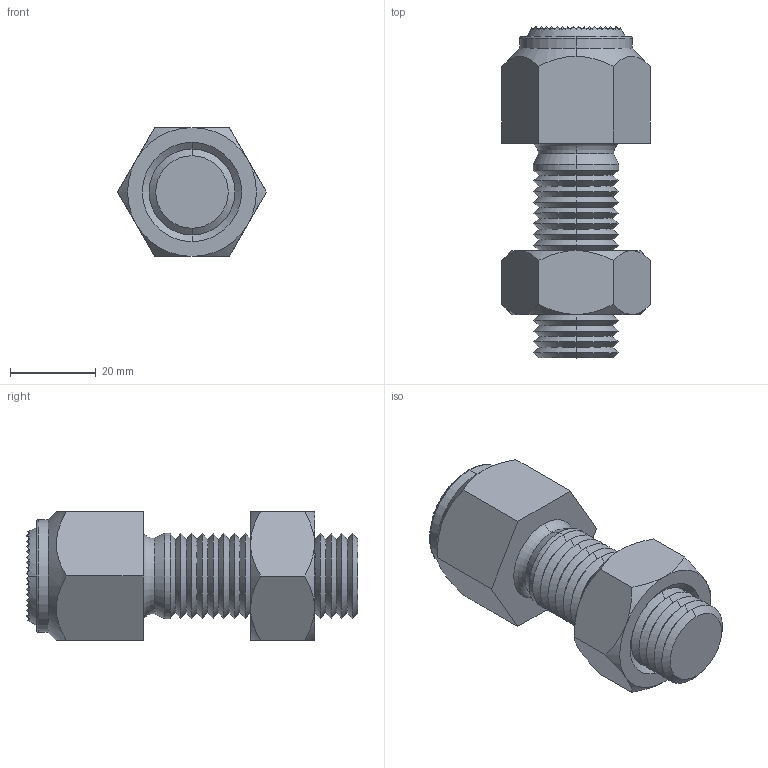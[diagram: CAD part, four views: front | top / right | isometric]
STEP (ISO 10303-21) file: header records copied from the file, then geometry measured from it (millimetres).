
FILE_DESCRIPTION (( 'STEP AP203' ), '1' );
FILE_NAME ('34120.W0330.step', '2017-03-27T09:22:47', ( 'User' ), ( '' ), 'SwSTEP 2.0', 'SolidWorks 2009', '' );
FILE_SCHEMA (( 'CONFIG_CONTROL_DESIGN' ));
Length unit declared in the file: millimetre
Products named in the file (4): Part1_34120.W0330; 34120.W0330; Part2_34120.W0330; Part3_34120.W0330
Assembly tree (3 placements, depth 2):
  34120.W0330
    Part1_34120.W0330
    Part3_34120.W0330
    Part2_34120.W0330
Bounding box: 34.64 x 77.3 x 30 mm (x, y, z)
Volume: 38633.4 mm3; surface area: 14415.6 mm2
Topology: 3 solids, 3 shells, 1081 faces, 1818 edges, 741 vertices
Faces by surface type: plane 971, cone 90, torus 8, cylinder 8, sphere 4
Entity records: 23688 total; most frequent: DIRECTION 4242, CARTESIAN_POINT 3878, ORIENTED_EDGE 3616, EDGE_CURVE 1808, LINE 1484, VECTOR 1484, AXIS2_PLACEMENT_3D 1379, EDGE_LOOP 1085
